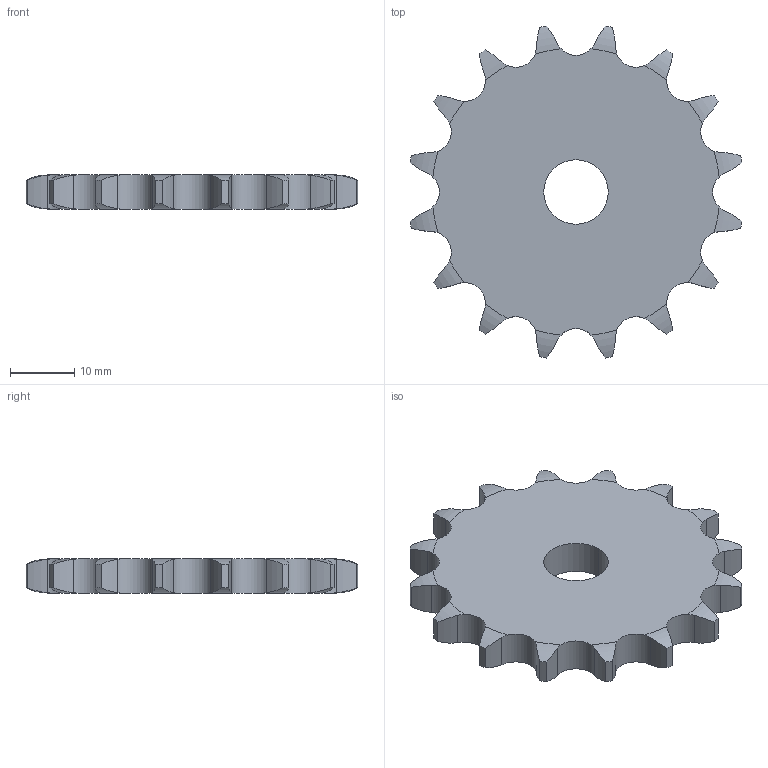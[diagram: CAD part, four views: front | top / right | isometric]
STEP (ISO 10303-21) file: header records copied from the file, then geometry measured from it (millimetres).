
FILE_DESCRIPTION((''),'2;1');
FILE_NAME('500-101-0016_PRT','2021-02-12T',('Brieden'),('Brieden'),'PRO/ENGINEER BY PARAMETRIC TECHNOLOGY CORPORATION, 2010160','PRO/ENGINEER BY PARAMETRIC TECHNOLOGY CORPORATION, 2010160','');
FILE_SCHEMA(('AUTOMOTIVE_DESIGN { 1 0 10303 214 1 1 1 1 }'));
Length unit declared in the file: millimetre
Products named in the file (1): 500-101-0016_PRT
Bounding box: 51.5 x 51.5 x 5.3 mm (x, y, z)
Volume: 8372.1 mm3; surface area: 4504.2 mm2
Topology: 1 solids, 1 shells, 100 faces, 294 edges, 196 vertices
Faces by surface type: cylinder 66, torus 32, plane 2
Entity records: 4822 total; most frequent: CARTESIAN_POINT 1357, ORIENTED_EDGE 588, DIRECTION 466, PRESENTATION_STYLE_ASSIGNMENT 295, STYLED_ITEM 295, CURVE_STYLE 294, EDGE_CURVE 294, AXIS2_PLACEMENT_3D 200
